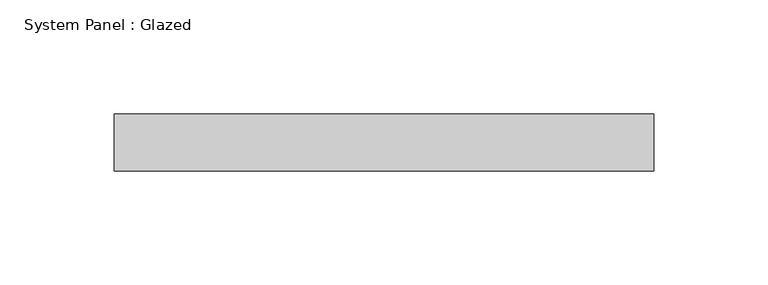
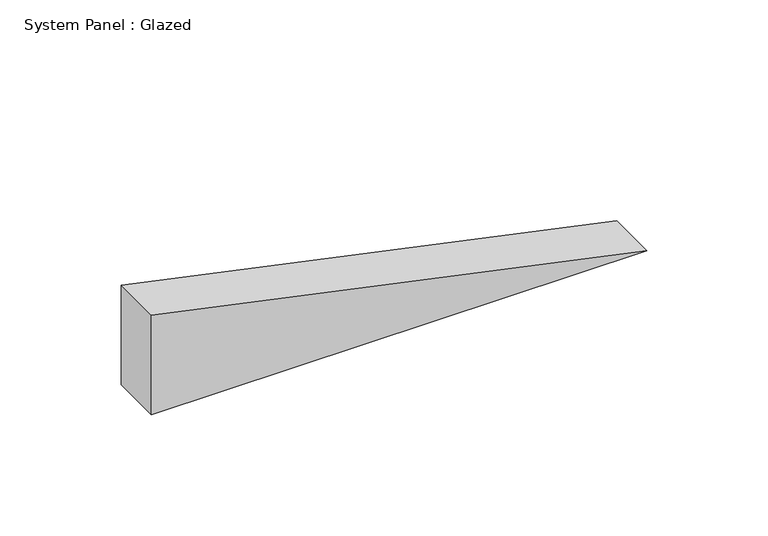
"""IFC4 building model written with IfcOpenShell, lengths in millimetres: plate geometry, System Panel : Glazed."""

import ifcopenshell
import ifcopenshell.guid

model = None  # the IFC model being written
_history = None  # IfcOwnerHistory: only IFC2X3 demands one
_inside = {}  # id of a spatial element -> (the spatial element, [elements in it])
_under = {}  # id of a project, library or spatial element -> (it, [spatial elements below it])
_declared = {}  # id of a project -> (the project, [libraries it declares])
_typed = {}  # id of a type object -> (the type object, [elements of that type])
_made_of = {}  # id of a material, layer set ... -> (it, [elements and type objects made of it])


def new_model(schema):
    """Start an empty IFC model of exactly this schema.

    Asked for "IFC4X3", IfcOpenShell would pick the latest addendum, in which some entities
    have other attributes; the version numbers below select the first issue.
    IFC2X3 requires an IfcOwnerHistory on every rooted entity: one is made here for all.
    """
    global model, _history
    if schema == "IFC4X3":
        model = ifcopenshell.file(schema_version=(4, 3, 0, 0))
    else:
        model = ifcopenshell.file(schema=schema)
    _inside.clear()
    _under.clear()
    _declared.clear()
    _typed.clear()
    _made_of.clear()
    _history = None
    if model.schema == "IFC2X3":
        org = make("IfcOrganization", Name="unknown")
        user = make(
            "IfcPersonAndOrganization",
            ThePerson=make("IfcPerson", FamilyName="unknown"),
            TheOrganization=org,
        )
        app = make(
            "IfcApplication",
            ApplicationDeveloper=org,
            Version="unknown",
            ApplicationFullName="unknown",
            ApplicationIdentifier="unknown",
        )
        _history = make(
            "IfcOwnerHistory",
            OwningUser=user,
            OwningApplication=app,
            ChangeAction="ADDED",
            CreationDate=0,
        )
    return model


def make(cls, **values):
    """One entity of the class cls with the attributes given. An attribute that is None is left unset."""
    return model.create_entity(
        cls, **{name: value for name, value in values.items() if value is not None}
    )


def rooted(cls, **values):
    """An entity with a GlobalId (a new one), such as an element, a storey or a relation."""
    return make(cls, GlobalId=ifcopenshell.guid.new(), OwnerHistory=_history, **values)


def si_unit(unit_type, name, prefix=None):
    """IfcSIUnit, for example si_unit("LENGTHUNIT", "METRE", prefix="MILLI")."""
    return make("IfcSIUnit", UnitType=unit_type, Prefix=prefix, Name=name)


def assignment(units):
    """IfcUnitAssignment: the units of a project."""
    return None if units is None else make("IfcUnitAssignment", Units=units)


def point(xyz):
    """IfcCartesianPoint."""
    return None if xyz is None else make("IfcCartesianPoint", Coordinates=xyz)


def direction(xyz):
    """IfcDirection."""
    return None if xyz is None else make("IfcDirection", DirectionRatios=xyz)


def frame(location, z_axis=None, x_axis=None):
    """IfcAxis2Placement3D, a coordinate frame: its origin and axes. An axis left out is left unset."""
    return make(
        "IfcAxis2Placement3D",
        Location=point(location),
        Axis=direction(z_axis),
        RefDirection=direction(x_axis),
    )


def origin():
    """The frame at (0, 0, 0) with its axes left unset."""
    return frame((0.0, 0.0, 0.0))


def place(relative_to, where):
    """IfcLocalPlacement: puts the frame where relative to a parent placement (None: the world)."""
    return make(
        "IfcLocalPlacement", PlacementRelTo=relative_to, RelativePlacement=where
    )


def context(
    kind, dimensions, precision=None, world=None, true_north=None, identifier=None
):
    """IfcGeometricRepresentationContext, for example the 3D "Model" context."""
    return make(
        "IfcGeometricRepresentationContext",
        ContextIdentifier=identifier,
        ContextType=kind,
        CoordinateSpaceDimension=dimensions,
        Precision=precision,
        WorldCoordinateSystem=world,
        TrueNorth=true_north,
    )


def project(units=None, contexts=None):
    """IfcProject with its units and contexts."""
    return rooted(
        "IfcProject",
        Name="project",
        RepresentationContexts=contexts,
        UnitsInContext=assignment(units),
    )


def spatial(cls, under=None, at=None, **own):
    """A site, building, storey or space (cls), placed at a placement, below another one or the project."""
    s = rooted(cls, ObjectPlacement=at, **own)
    if under is not None:
        _under.setdefault(under.id(), (under, []))[1].append(s)
    return s


def polyline(points):
    """IfcPolyline through the points."""
    return make("IfcPolyline", Points=[point(p) for p in points])


def outline(outer, holes=None, kind="AREA"):
    """IfcArbitraryClosedProfileDef: a profile drawn as a closed curve; with holes, ...WithVoids."""
    if holes is None:
        return make("IfcArbitraryClosedProfileDef", ProfileType=kind, OuterCurve=outer)
    return make(
        "IfcArbitraryProfileDefWithVoids",
        ProfileType=kind,
        OuterCurve=outer,
        InnerCurves=holes,
    )


def extrude(swept, where, along, depth):
    """IfcExtrudedAreaSolid: the profile swept, set in the frame where, extruded along a direction by depth."""
    return make(
        "IfcExtrudedAreaSolid",
        SweptArea=swept,
        Position=where,
        ExtrudedDirection=direction(along),
        Depth=depth,
    )


def shape(context_of_items, identifier, shape_type, items):
    """IfcShapeRepresentation: the items that make up one representation, for example the "Body"."""
    return make(
        "IfcShapeRepresentation",
        ContextOfItems=context_of_items,
        RepresentationIdentifier=identifier,
        RepresentationType=shape_type,
        Items=items,
    )


def source(mapping_origin, context_of_items, identifier, shape_type, items):
    """IfcRepresentationMap: a shape defined once, which mapped items show again and again."""
    return make(
        "IfcRepresentationMap",
        MappingOrigin=mapping_origin,
        MappedRepresentation=shape(context_of_items, identifier, shape_type, items),
    )


def transform(
    local_origin,
    x_axis=None,
    y_axis=None,
    z_axis=None,
    scale=None,
    scale2=None,
    scale3=None,
    uniform=True,
):
    """IfcCartesianTransformationOperator3D, or its non-uniform kind. x_axis, y_axis, z_axis: its Axis1, 2, 3."""
    if uniform:
        return make(
            "IfcCartesianTransformationOperator3D",
            Axis1=direction(x_axis),
            Axis2=direction(y_axis),
            LocalOrigin=point(local_origin),
            Scale=scale,
            Axis3=direction(z_axis),
        )
    return make(
        "IfcCartesianTransformationOperator3DnonUniform",
        Axis1=direction(x_axis),
        Axis2=direction(y_axis),
        LocalOrigin=point(local_origin),
        Scale=scale,
        Axis3=direction(z_axis),
        Scale2=scale2,
        Scale3=scale3,
    )


def mapped(mapping_source, mapping_target):
    """IfcMappedItem: shows the shape of a source again, moved by a transform."""
    return make(
        "IfcMappedItem", MappingSource=mapping_source, MappingTarget=mapping_target
    )


def made_of(thing, what):
    """Note that an element or type object is made of a material, layer set ...; save() writes the relation."""
    if what is not None:
        _made_of.setdefault(what.id(), (what, []))[1].append(thing)
    return thing


def element(
    cls,
    number,
    at=None,
    inside=None,
    cuts=None,
    type_object=None,
    material=None,
    context=None,
    identifier="Body",
    shape_type=None,
    held_by="IfcProductDefinitionShape",
    body=None,
    shapes=None,
    **own,
):
    """One element of the class cls, such as IfcWall. Its Tag is "e" and its number.

    at: its placement. inside: the storey or other place that contains it. cuts: it is an
    opening in that element (IfcRelVoidsElement). A single representation is given by context,
    identifier, shape_type and body (its items); several are given by shapes. held_by: the class
    of the entity that holds the representations. save() writes the other relations.
    """
    e = rooted(cls, Tag="e%d" % number, ObjectPlacement=at, **own)
    if body is not None:
        shapes = [shape(context, identifier, shape_type, body)]
    if shapes is not None:
        e.Representation = make(held_by, Representations=shapes)
    if inside is not None:
        _inside.setdefault(inside.id(), (inside, []))[1].append(e)
    if cuts is not None:
        rooted(
            "IfcRelVoidsElement", RelatingBuildingElement=cuts, RelatedOpeningElement=e
        )
    if type_object is not None:
        _typed.setdefault(type_object.id(), (type_object, []))[1].append(e)
    return made_of(e, material)


def aggregate(whole, parts):
    """IfcRelAggregates: a whole, such as a stair, and the parts it consists of."""
    return rooted("IfcRelAggregates", RelatingObject=whole, RelatedObjects=parts)


def save(model, path):
    """Write the relations noted so far, then the file.

    IfcRelAggregates (storeys below a building ...), IfcRelContainedInSpatialStructure (elements
    in a storey), IfcRelDefinesByType, IfcRelAssociatesMaterial and IfcRelDeclares: one each for
    every whole, place, type object, material and project.
    """
    for whole, parts in _under.values():
        aggregate(whole, parts)
    for where, things in _inside.values():
        rooted(
            "IfcRelContainedInSpatialStructure",
            RelatedElements=things,
            RelatingStructure=where,
        )
    for kind, things in _typed.values():
        rooted("IfcRelDefinesByType", RelatedObjects=things, RelatingType=kind)
    for what, things in _made_of.values():
        rooted("IfcRelAssociatesMaterial", RelatedObjects=things, RelatingMaterial=what)
    for by, libraries in _declared.values():
        rooted("IfcRelDeclares", RelatingContext=by, RelatedDefinitions=libraries)
    model.write(path)


def system_panel_glazed_1f278f70(model_context):
    return source(origin(), model_context, "Body", "SweptSolid", [
        extrude(outline(polyline([(0.0, -118.1479562), (0.0, 118.1479562), (50.2262467, -118.1479562), (0.0, -118.1479562)])), frame((0.0, -49.5, 0.0), z_axis=(0.0, 1.0, 0.0), x_axis=(0.0, 0.0, 1.0)), (0.0, 0.0, 1.0), 25.0),
    ])


if __name__ == "__main__":
    model = new_model("IFC4")
    model_context = context("Model", 3, world=origin())
    ifc_project = project(units=[si_unit("LENGTHUNIT", "METRE", prefix="MILLI")], contexts=[model_context])
    site = spatial("IfcSite", under=ifc_project)
    building = spatial("IfcBuilding", under=site)
    placement = place(None, origin())
    system_panel_glazed_shape = system_panel_glazed_1f278f70(model_context)
    element("IfcPlate", 1, ObjectType="System Panel : Glazed", at=placement, inside=building, context=model_context, shape_type="MappedRepresentation", body=[
        mapped(system_panel_glazed_shape, transform((0.0, 0.0, 0.0), x_axis=(1.0, 0.0, 0.0), y_axis=(0.0, 1.0, 0.0), z_axis=(0.0, 0.0, 1.0))),
    ])
    save(model, "model.ifc")
